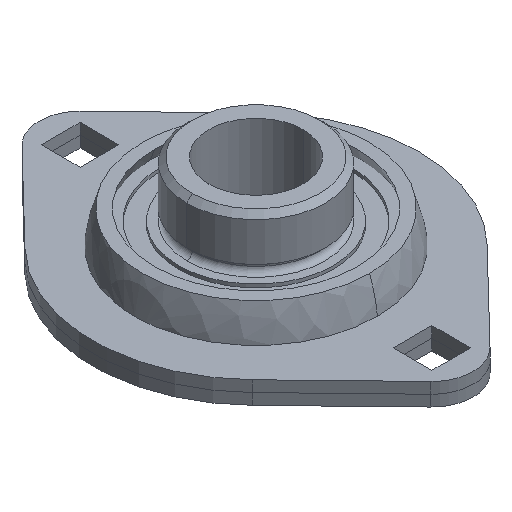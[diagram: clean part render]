
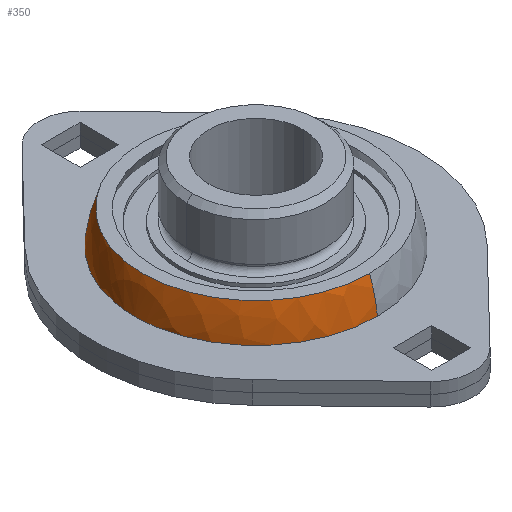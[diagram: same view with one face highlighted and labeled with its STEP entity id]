
A CAD part, isometric view. The second image highlights one B-rep face of the part: STEP entity #350.
In plain terms, the highlighted spherical face has radius 22 mm.
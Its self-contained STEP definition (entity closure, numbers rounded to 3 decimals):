
#142 = CARTESIAN_POINT ( 'NONE',  ( 0., 0., 0. ) ) ;
#236 = FACE_OUTER_BOUND ( 'NONE', #729, .T. ) ;
#262 = AXIS2_PLACEMENT_3D ( 'NONE', #142, #1435, #1426 ) ;
#297 = DIRECTION ( 'NONE',  ( -1., 0., 0. ) ) ;
#350 = ADVANCED_FACE ( 'NONE', ( #236 ), #2066, .T. ) ;
#385 = VERTEX_POINT ( 'NONE', #1704 ) ;
#394 = EDGE_CURVE ( 'NONE', #1769, #443, #904, .T. ) ;
#443 = VERTEX_POINT ( 'NONE', #1013 ) ;
#458 = CARTESIAN_POINT ( 'NONE',  ( 0., 0., 0. ) ) ;
#494 = ORIENTED_EDGE ( 'NONE', *, *, #394, .T. ) ;
#515 = VERTEX_POINT ( 'NONE', #1907 ) ;
#520 = EDGE_CURVE ( 'NONE', #443, #385, #1958, .T. ) ;
#540 = EDGE_CURVE ( 'NONE', #1769, #515, #2016, .T. ) ;
#623 = DIRECTION ( 'NONE',  ( 0., 1., 0. ) ) ;
#641 = DIRECTION ( 'NONE',  ( 0., 0., -1. ) ) ;
#666 = ORIENTED_EDGE ( 'NONE', *, *, #1043, .F. ) ;
#670 = CARTESIAN_POINT ( 'NONE',  ( 0., -20.494, 8. ) ) ;
#729 = EDGE_LOOP ( 'NONE', ( #2167, #494, #1607, #666 ) ) ;
#904 = CIRCLE ( 'NONE', #2006, 20.494 ) ;
#1013 = CARTESIAN_POINT ( 'NONE',  ( 0., 20.494, 8. ) ) ;
#1043 = EDGE_CURVE ( 'NONE', #515, #385, #1348, .T. ) ;
#1175 = CARTESIAN_POINT ( 'NONE',  ( 0., 0., 8. ) ) ;
#1181 = AXIS2_PLACEMENT_3D ( 'NONE', #458, #1695, #623 ) ;
#1196 = DIRECTION ( 'NONE',  ( 0., 0., 1. ) ) ;
#1312 = AXIS2_PLACEMENT_3D ( 'NONE', #1719, #297, #1196 ) ;
#1348 = CIRCLE ( 'NONE', #1650, 21.909 ) ;
#1359 = DIRECTION ( 'NONE',  ( -1., 0., 0. ) ) ;
#1426 = DIRECTION ( 'NONE',  ( 0., 1., 0. ) ) ;
#1435 = DIRECTION ( 'NONE',  ( 1., 0., 0. ) ) ;
#1607 = ORIENTED_EDGE ( 'NONE', *, *, #520, .T. ) ;
#1650 = AXIS2_PLACEMENT_3D ( 'NONE', #1710, #641, #1892 ) ;
#1685 = DIRECTION ( 'NONE',  ( 0., 0., -1. ) ) ;
#1695 = DIRECTION ( 'NONE',  ( 1., 0., 0. ) ) ;
#1704 = CARTESIAN_POINT ( 'NONE',  ( 0., 21.909, 2. ) ) ;
#1710 = CARTESIAN_POINT ( 'NONE',  ( 0., 0., 2. ) ) ;
#1719 = CARTESIAN_POINT ( 'NONE',  ( 0., 0., 0. ) ) ;
#1769 = VERTEX_POINT ( 'NONE', #670 ) ;
#1892 = DIRECTION ( 'NONE',  ( -1., 0., 0. ) ) ;
#1907 = CARTESIAN_POINT ( 'NONE',  ( 0., -21.909, 2. ) ) ;
#1958 = CIRCLE ( 'NONE', #1312, 22. ) ;
#2006 = AXIS2_PLACEMENT_3D ( 'NONE', #1175, #1685, #1359 ) ;
#2016 = CIRCLE ( 'NONE', #262, 22. ) ;
#2066 = SPHERICAL_SURFACE ( 'NONE', #1181, 22. ) ;
#2167 = ORIENTED_EDGE ( 'NONE', *, *, #540, .F. ) ;
